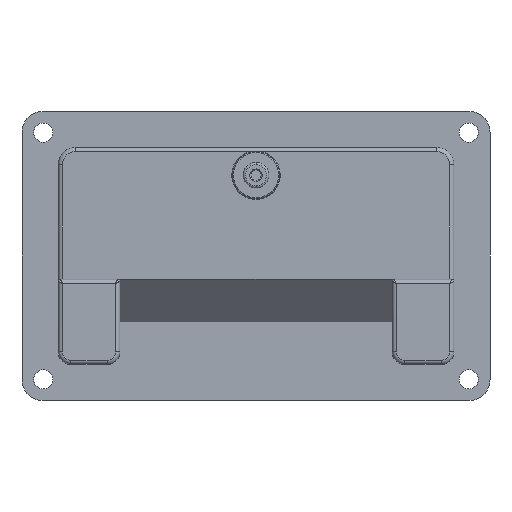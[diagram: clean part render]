
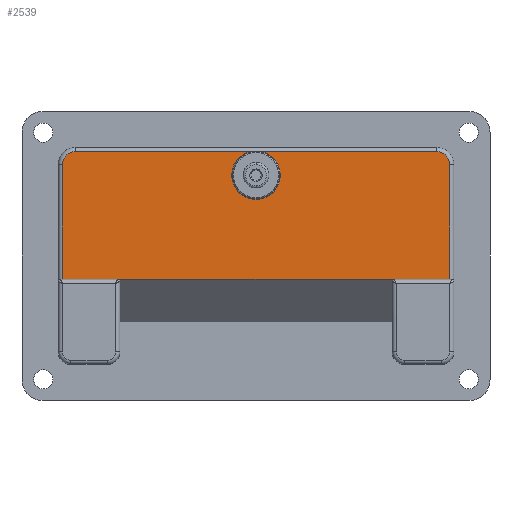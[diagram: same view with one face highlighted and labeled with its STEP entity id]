
A CAD part, front view. The second image highlights one B-rep face of the part: STEP entity #2539.
In plain terms, the highlighted planar face has unit normal (0, -1, 0).
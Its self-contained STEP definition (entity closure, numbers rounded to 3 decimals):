
#15 = VERTEX_POINT ( 'NONE', #2009 ) ;
#103 = ORIENTED_EDGE ( 'NONE', *, *, #8045, .F. ) ;
#113 = DIRECTION ( 'NONE',  ( 0., -1., 0. ) ) ;
#167 = DIRECTION ( 'NONE',  ( 0., 0., -1. ) ) ;
#191 = DIRECTION ( 'NONE',  ( 0., 0., 1. ) ) ;
#348 = CIRCLE ( 'NONE', #2895, 5.7 ) ;
#864 = FACE_OUTER_BOUND ( 'NONE', #1453, .T. ) ;
#913 = CIRCLE ( 'NONE', #5995, 3. ) ;
#914 = CARTESIAN_POINT ( 'NONE',  ( -45.793, -12., -5.5 ) ) ;
#1098 = CARTESIAN_POINT ( 'NONE',  ( -42.5, -12., 24.5 ) ) ;
#1212 = LINE ( 'NONE', #8295, #8207 ) ;
#1229 = LINE ( 'NONE', #1098, #8006 ) ;
#1453 = EDGE_LOOP ( 'NONE', ( #8037, #7103, #3450, #1590, #6237, #103, #3416, #3116, #3885, #7585 ) ) ;
#1581 = VECTOR ( 'NONE', #4269, 1000. ) ;
#1590 = ORIENTED_EDGE ( 'NONE', *, *, #6277, .T. ) ;
#1675 = VERTEX_POINT ( 'NONE', #4954 ) ;
#1780 = LINE ( 'NONE', #914, #1581 ) ;
#1791 = CARTESIAN_POINT ( 'NONE',  ( -32., -12., -5.5 ) ) ;
#2009 = CARTESIAN_POINT ( 'NONE',  ( -32.5, -12., -5.5 ) ) ;
#2212 = VERTEX_POINT ( 'NONE', #7275 ) ;
#2304 = LINE ( 'NONE', #4501, #4114 ) ;
#2305 = EDGE_CURVE ( 'NONE', #8266, #5700, #2752, .T. ) ;
#2368 = CARTESIAN_POINT ( 'NONE',  ( 45.5, -12., 21.5 ) ) ;
#2539 = ADVANCED_FACE ( 'NONE', ( #864 ), #6735, .F. ) ;
#2670 = CARTESIAN_POINT ( 'NONE',  ( 50., -12., 29. ) ) ;
#2710 = EDGE_CURVE ( 'NONE', #15, #8344, #1780, .T. ) ;
#2752 = LINE ( 'NONE', #4573, #7742 ) ;
#2895 = AXIS2_PLACEMENT_3D ( 'NONE', #8290, #4236, #191 ) ;
#3116 = ORIENTED_EDGE ( 'NONE', *, *, #3487, .F. ) ;
#3157 = CARTESIAN_POINT ( 'NONE',  ( 1.497, -12., 24.5 ) ) ;
#3313 = CARTESIAN_POINT ( 'NONE',  ( 45.5, -12., 21.5 ) ) ;
#3351 = DIRECTION ( 'NONE',  ( 0., 0., 1. ) ) ;
#3416 = ORIENTED_EDGE ( 'NONE', *, *, #2710, .T. ) ;
#3450 = ORIENTED_EDGE ( 'NONE', *, *, #4882, .T. ) ;
#3487 = EDGE_CURVE ( 'NONE', #4382, #8344, #2304, .T. ) ;
#3508 = DIRECTION ( 'NONE',  ( 0., -1., 0. ) ) ;
#3885 = ORIENTED_EDGE ( 'NONE', *, *, #8758, .T. ) ;
#4005 = VERTEX_POINT ( 'NONE', #7769 ) ;
#4010 = DIRECTION ( 'NONE',  ( 0., 0., 1. ) ) ;
#4114 = VECTOR ( 'NONE', #8568, 1000. ) ;
#4150 = CARTESIAN_POINT ( 'NONE',  ( -42.5, -12., 21.5 ) ) ;
#4236 = DIRECTION ( 'NONE',  ( 0., 1., 0. ) ) ;
#4269 = DIRECTION ( 'NONE',  ( 1., 0., 0. ) ) ;
#4274 = LINE ( 'NONE', #1791, #5848 ) ;
#4382 = VERTEX_POINT ( 'NONE', #4707 ) ;
#4501 = CARTESIAN_POINT ( 'NONE',  ( 32., -12., -5.5 ) ) ;
#4573 = CARTESIAN_POINT ( 'NONE',  ( -45.5, -12., 29. ) ) ;
#4707 = CARTESIAN_POINT ( 'NONE',  ( 45.5, -12., -5.5 ) ) ;
#4825 = DIRECTION ( 'NONE',  ( 0., 0., 1. ) ) ;
#4846 = CARTESIAN_POINT ( 'NONE',  ( 32.5, -12., -5.5 ) ) ;
#4882 = EDGE_CURVE ( 'NONE', #4005, #1675, #1229, .T. ) ;
#4911 = VERTEX_POINT ( 'NONE', #3157 ) ;
#4954 = CARTESIAN_POINT ( 'NONE',  ( -42.5, -12., 24.5 ) ) ;
#5695 = EDGE_CURVE ( 'NONE', #6761, #2212, #913, .T. ) ;
#5700 = VERTEX_POINT ( 'NONE', #6888 ) ;
#5797 = AXIS2_PLACEMENT_3D ( 'NONE', #2670, #7434, #3351 ) ;
#5848 = VECTOR ( 'NONE', #7898, 1000. ) ;
#5995 = AXIS2_PLACEMENT_3D ( 'NONE', #7575, #3508, #8254 ) ;
#6237 = ORIENTED_EDGE ( 'NONE', *, *, #2305, .T. ) ;
#6254 = DIRECTION ( 'NONE',  ( -1., 0., 0. ) ) ;
#6277 = EDGE_CURVE ( 'NONE', #1675, #8266, #8750, .T. ) ;
#6735 = PLANE ( 'NONE',  #5797 ) ;
#6761 = VERTEX_POINT ( 'NONE', #2368 ) ;
#6888 = CARTESIAN_POINT ( 'NONE',  ( -45.5, -12., -5.5 ) ) ;
#7103 = ORIENTED_EDGE ( 'NONE', *, *, #8393, .T. ) ;
#7157 = DIRECTION ( 'NONE',  ( -1., 0., 0. ) ) ;
#7275 = CARTESIAN_POINT ( 'NONE',  ( 42.5, -12., 24.5 ) ) ;
#7434 = DIRECTION ( 'NONE',  ( 0., 1., 0. ) ) ;
#7504 = CARTESIAN_POINT ( 'NONE',  ( -45.5, -12., 21.5 ) ) ;
#7575 = CARTESIAN_POINT ( 'NONE',  ( 42.5, -12., 21.5 ) ) ;
#7585 = ORIENTED_EDGE ( 'NONE', *, *, #5695, .T. ) ;
#7704 = EDGE_CURVE ( 'NONE', #2212, #4911, #1212, .T. ) ;
#7742 = VECTOR ( 'NONE', #167, 1000. ) ;
#7769 = CARTESIAN_POINT ( 'NONE',  ( -1.497, -12., 24.5 ) ) ;
#7898 = DIRECTION ( 'NONE',  ( -1., 0., 0. ) ) ;
#8006 = VECTOR ( 'NONE', #7157, 1000. ) ;
#8037 = ORIENTED_EDGE ( 'NONE', *, *, #7704, .T. ) ;
#8045 = EDGE_CURVE ( 'NONE', #15, #5700, #4274, .T. ) ;
#8191 = VECTOR ( 'NONE', #4010, 1000. ) ;
#8207 = VECTOR ( 'NONE', #6254, 1000. ) ;
#8254 = DIRECTION ( 'NONE',  ( 0., 0., 1. ) ) ;
#8266 = VERTEX_POINT ( 'NONE', #7504 ) ;
#8290 = CARTESIAN_POINT ( 'NONE',  ( 0., -12., 19. ) ) ;
#8295 = CARTESIAN_POINT ( 'NONE',  ( -42.5, -12., 24.5 ) ) ;
#8344 = VERTEX_POINT ( 'NONE', #4846 ) ;
#8379 = AXIS2_PLACEMENT_3D ( 'NONE', #4150, #113, #4825 ) ;
#8389 = LINE ( 'NONE', #3313, #8191 ) ;
#8393 = EDGE_CURVE ( 'NONE', #4911, #4005, #348, .T. ) ;
#8568 = DIRECTION ( 'NONE',  ( -1., 0., 0. ) ) ;
#8750 = CIRCLE ( 'NONE', #8379, 3. ) ;
#8758 = EDGE_CURVE ( 'NONE', #4382, #6761, #8389, .T. ) ;
